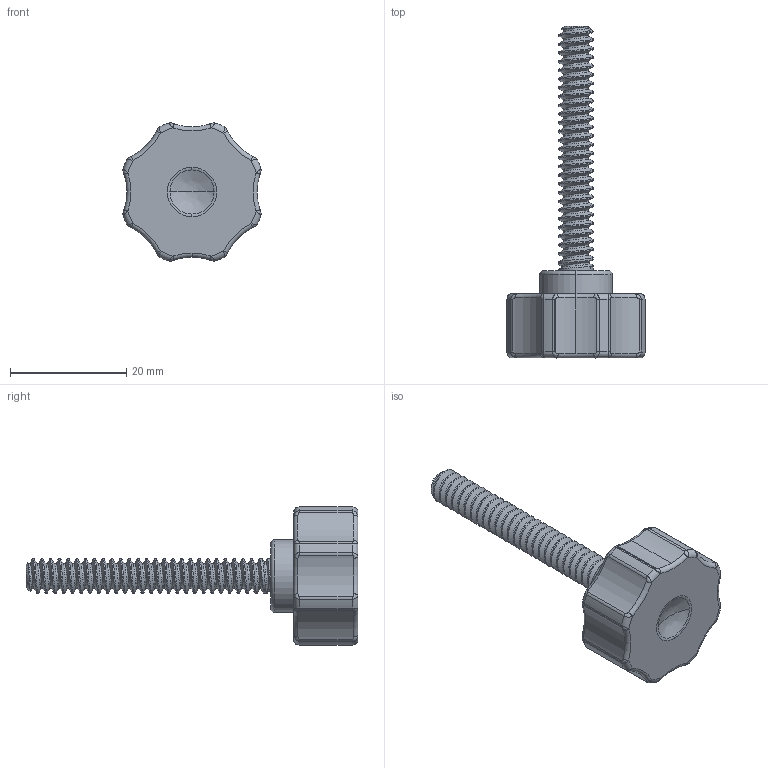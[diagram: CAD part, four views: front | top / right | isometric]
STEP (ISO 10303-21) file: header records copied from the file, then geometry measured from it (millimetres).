
FILE_DESCRIPTION (( 'STEP AP214' ), '1' );
FILE_NAME ('D25M6H40.STEP', '2020-06-30T09:52:11', ( '' ), ( '' ), 'SwSTEP 2.0', 'SolidWorks 2018', '' );
FILE_SCHEMA (( 'AUTOMOTIVE_DESIGN' ));
Length unit declared in the file: millimetre
Products named in the file (3): D25M6H40 Part 1; D25M6H40; D25M6H40 Part 2
Assembly tree (2 placements, depth 2):
  D25M6H40
    D25M6H40 Part 1
    D25M6H40 Part 2
Bounding box: 23.77 x 57 x 23.77 mm (x, y, z)
Volume: 4685.9 mm3; surface area: 4559.5 mm2
Topology: 2 solids, 2 shells, 203 faces, 500 edges, 307 vertices
Faces by surface type: cylinder 107, torus 42, bspline 40, plane 11, cone 3
Entity records: 13320 total; most frequent: CARTESIAN_POINT 8926, ORIENTED_EDGE 996, DIRECTION 836, EDGE_CURVE 498, AXIS2_PLACEMENT_3D 362, VERTEX_POINT 307, EDGE_LOOP 211, FACE_OUTER_BOUND 203
